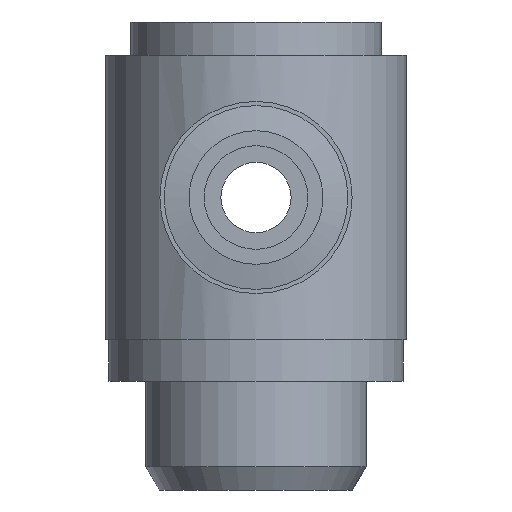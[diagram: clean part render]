
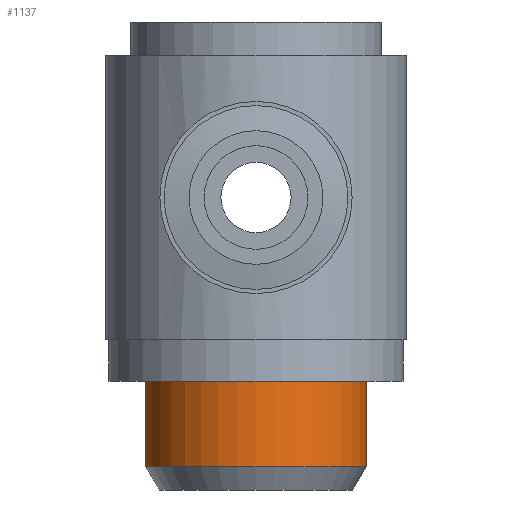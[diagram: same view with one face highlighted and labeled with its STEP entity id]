
A CAD part, front view. The second image highlights one B-rep face of the part: STEP entity #1137.
In plain terms, the highlighted cylindrical face has radius 6.6 mm (diameter 13.2 mm), a full revolution.
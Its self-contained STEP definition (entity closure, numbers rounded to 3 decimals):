
#1097=CARTESIAN_POINT('',(0.,-6.6,-16.1));
#1098=VERTEX_POINT('',#1097);
#1099=CARTESIAN_POINT('',(0.0,0.0,-16.1));
#1100=DIRECTION('',(0.0,0.0,-1.0));
#1101=DIRECTION('',(0.0,1.0,0.0));
#1102=AXIS2_PLACEMENT_3D('',#1099,#1100,#1101);
#1103=CIRCLE('',#1102,6.6);
#1104=EDGE_CURVE('',#1098,#1098,#1103,.T.);
#1118=CARTESIAN_POINT('',(0.0,0.0,-14.25));
#1119=DIRECTION('',(0.0,0.0,1.0));
#1120=DIRECTION('',(0.0,-1.0,0.0));
#1121=AXIS2_PLACEMENT_3D('',#1118,#1119,#1120);
#1122=CYLINDRICAL_SURFACE('',#1121,6.6);
#1123=CARTESIAN_POINT('',(0.0,-6.6,-11.0));
#1124=VERTEX_POINT('',#1123);
#1125=CARTESIAN_POINT('',(0.0,0.0,-11.0));
#1126=DIRECTION('',(0.0,0.0,1.0));
#1127=DIRECTION('',(0.0,-1.0,0.0));
#1128=AXIS2_PLACEMENT_3D('',#1125,#1126,#1127);
#1129=CIRCLE('',#1128,6.6);
#1130=EDGE_CURVE('',#1124,#1124,#1129,.T.);
#1131=ORIENTED_EDGE('',*,*,#1130,.F.);
#1132=EDGE_LOOP('',(#1131));
#1133=FACE_OUTER_BOUND('',#1132,.T.);
#1134=ORIENTED_EDGE('',*,*,#1104,.F.);
#1135=EDGE_LOOP('',(#1134));
#1136=FACE_BOUND('',#1135,.T.);
#1137=ADVANCED_FACE('',(#1133,#1136),#1122,.T.);
